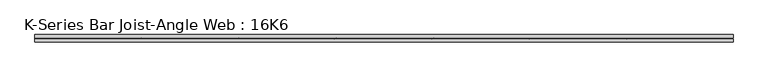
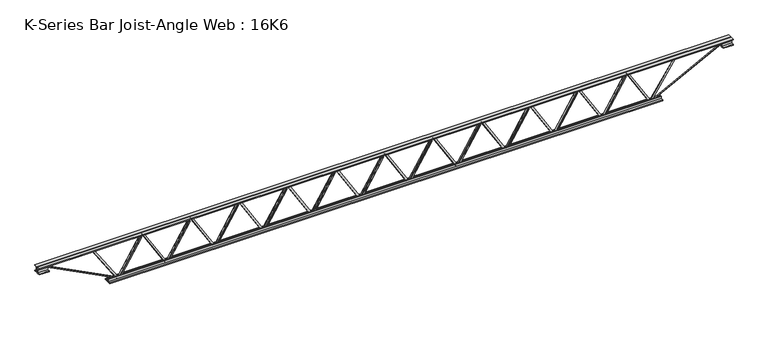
"""IFC4 building model written with IfcOpenShell, lengths in millimetres: beam geometry, K-Series Bar Joist-Angle Web : 16K6."""

from ifc_helpers import new_model, si_unit, frame, origin, place, context, project, spatial, polyline, outline, extrude, faceted_brep, source, transform, mapped, element, save


def k_series_bar_joist_angle_web_16k6_93f726df(model_context):
    return source(origin(), model_context, "Body", "SolidModel", [
        extrude(outline(polyline([(-4.75, 4.7625), (-4.75, 0.0), (-17.45, 0.0), (-17.45, 4.7625), (-4.75, 4.7625)])), frame((2166.7169932, 0.0, -164.9), z_axis=(-0.5200116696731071, 0.0, 0.8541591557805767), x_axis=(0.0, -1.0, 0.0)), (0.0, 0.0, 1.0), 386.1107122),
        extrude(outline(polyline([(-199.825, 2199.6818182), (-180.775, 2199.6818182), (-180.775, 2198.6843205), (199.825, 1966.9752296), (199.825, 1948.9227273), (180.775, 1948.9227273), (180.775, 1956.270225), (-199.825, 2187.9793159), (-199.825, 2199.6818182)])), frame((0.0, 0.0, 0.0), z_axis=(0.0, 1.0, 0.0), x_axis=(0.0, 0.0, 1.0)), (0.0, 0.0, 1.0), 4.75),
        faceted_brep([(1710.8636364, 0.0, -180.775), (1710.8636364, 0.0, -199.825), (1710.8636364, -4.75, -199.825), (1710.8636364, -4.75, -180.775), (1711.8611341, 0.0, -180.775), (1943.570225, 0.0, 199.825), (1961.6227273, 0.0, 199.825), (1961.6227273, 0.0, 180.775), (1954.2752296, 0.0, 180.775), (1722.5661387, 0.0, -199.825), (1722.5661387, -4.75, -199.825), (1743.8284613, -4.75, -164.9), (1739.7605283, -4.75, -162.4234444), (1940.5426045, -4.75, 167.3765556), (1944.6105375, -4.75, 164.9), (1954.2752296, -4.75, 180.775), (1961.6227273, -4.75, 180.775), (1961.6227273, -4.75, 199.825), (1943.570225, -4.75, 199.825), (1711.8611341, -4.75, -180.775), (1944.6105375, -17.4625, 164.9), (1743.8284613, -17.4625, -164.9), (1739.7605283, -17.4625, -162.4234444), (1940.5426045, -17.4625, 167.3765556)], [[[0, 1, 2, 3]], [[1, 0, 4, 5, 6, 7, 8, 9]], [[2, 1, 9, 10]], [[3, 2, 10, 11, 12, 13, 14, 15, 16, 17, 18, 19]], [[0, 3, 19, 4]], [[9, 8, 15, 14, 20, 21, 11, 10]], [[5, 4, 19, 18]], [[7, 6, 17, 16]], [[8, 7, 16, 15]], [[6, 5, 18, 17]], [[21, 22, 12, 11]], [[20, 14, 13, 23]], [[22, 21, 20, 23]], [[12, 22, 23, 13]]]),
        extrude(outline(polyline([(-4.75, 4.7625), (-4.75, 0.0), (-17.45, 0.0), (-17.45, 4.7625), (-4.75, 4.7625)])), frame((1677.8988114, 0.0, -164.9), z_axis=(-0.5200116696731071, 0.0, 0.8541591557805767), x_axis=(0.0, -1.0, 0.0)), (0.0, 0.0, 1.0), 386.1107122),
        extrude(outline(polyline([(-199.825, 1710.8636364), (-180.775, 1710.8636364), (-180.775, 1709.8661387), (199.825, 1478.1570478), (199.825, 1460.1045455), (180.775, 1460.1045455), (180.775, 1467.4520432), (-199.825, 1699.1611341), (-199.825, 1710.8636364)])), frame((0.0, 0.0, 0.0), z_axis=(0.0, 1.0, 0.0), x_axis=(0.0, 0.0, 1.0)), (0.0, 0.0, 1.0), 4.75),
        faceted_brep([(1222.0454545, 0.0, -180.775), (1222.0454545, 0.0, -199.825), (1222.0454545, -4.75, -199.825), (1222.0454545, -4.75, -180.775), (1223.0429522, 0.0, -180.775), (1454.7520432, 0.0, 199.825), (1472.8045455, 0.0, 199.825), (1472.8045455, 0.0, 180.775), (1465.4570478, 0.0, 180.775), (1233.7479568, 0.0, -199.825), (1233.7479568, -4.75, -199.825), (1255.0102795, -4.75, -164.9), (1250.9423465, -4.75, -162.4234444), (1451.7244227, -4.75, 167.3765556), (1455.7923556, -4.75, 164.9), (1465.4570478, -4.75, 180.775), (1472.8045455, -4.75, 180.775), (1472.8045455, -4.75, 199.825), (1454.7520432, -4.75, 199.825), (1223.0429522, -4.75, -180.775), (1455.7923556, -17.4625, 164.9), (1255.0102795, -17.4625, -164.9), (1250.9423465, -17.4625, -162.4234444), (1451.7244227, -17.4625, 167.3765556)], [[[0, 1, 2, 3]], [[1, 0, 4, 5, 6, 7, 8, 9]], [[2, 1, 9, 10]], [[3, 2, 10, 11, 12, 13, 14, 15, 16, 17, 18, 19]], [[0, 3, 19, 4]], [[9, 8, 15, 14, 20, 21, 11, 10]], [[5, 4, 19, 18]], [[7, 6, 17, 16]], [[8, 7, 16, 15]], [[6, 5, 18, 17]], [[21, 22, 12, 11]], [[20, 14, 13, 23]], [[22, 21, 20, 23]], [[12, 22, 23, 13]]]),
        extrude(outline(polyline([(-4.75, 4.7625), (-4.75, 0.0), (-17.45, 0.0), (-17.45, 4.7625), (-4.75, 4.7625)])), frame((1189.0806296, 0.0, -164.9), z_axis=(-0.5200116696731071, 0.0, 0.8541591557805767), x_axis=(0.0, -1.0, 0.0)), (0.0, 0.0, 1.0), 386.1107122),
        extrude(outline(polyline([(-199.825, 1222.0454545), (-180.775, 1222.0454545), (-180.775, 1221.0479568), (199.825, 989.3388659), (199.825, 971.2863636), (180.775, 971.2863636), (180.775, 978.6338613), (-199.825, 1210.3429522), (-199.825, 1222.0454545)])), frame((0.0, 0.0, 0.0), z_axis=(0.0, 1.0, 0.0), x_axis=(0.0, 0.0, 1.0)), (0.0, 0.0, 1.0), 4.75),
        faceted_brep([(733.2272727, 0.0, -180.775), (733.2272727, 0.0, -199.825), (733.2272727, -4.75, -199.825), (733.2272727, -4.75, -180.775), (734.2247704, 0.0, -180.775), (965.9338613, 0.0, 199.825), (983.9863636, 0.0, 199.825), (983.9863636, 0.0, 180.775), (976.6388659, 0.0, 180.775), (744.929775, 0.0, -199.825), (744.929775, -4.75, -199.825), (766.1920977, -4.75, -164.9), (762.1241647, -4.75, -162.4234444), (962.9062408, -4.75, 167.3765556), (966.9741738, -4.75, 164.9), (976.6388659, -4.75, 180.775), (983.9863636, -4.75, 180.775), (983.9863636, -4.75, 199.825), (965.9338613, -4.75, 199.825), (734.2247704, -4.75, -180.775), (966.9741738, -17.4625, 164.9), (766.1920977, -17.4625, -164.9), (762.1241647, -17.4625, -162.4234444), (962.9062408, -17.4625, 167.3765556)], [[[0, 1, 2, 3]], [[1, 0, 4, 5, 6, 7, 8, 9]], [[2, 1, 9, 10]], [[3, 2, 10, 11, 12, 13, 14, 15, 16, 17, 18, 19]], [[0, 3, 19, 4]], [[9, 8, 15, 14, 20, 21, 11, 10]], [[5, 4, 19, 18]], [[7, 6, 17, 16]], [[8, 7, 16, 15]], [[6, 5, 18, 17]], [[21, 22, 12, 11]], [[20, 14, 13, 23]], [[22, 21, 20, 23]], [[12, 22, 23, 13]]]),
        extrude(outline(polyline([(-4.75, 4.7625), (-4.75, 0.0), (-17.45, 0.0), (-17.45, 4.7625), (-4.75, 4.7625)])), frame((700.2624478, 0.0, -164.9), z_axis=(-0.5200116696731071, 0.0, 0.8541591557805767), x_axis=(0.0, -1.0, 0.0)), (0.0, 0.0, 1.0), 386.1107122),
        extrude(outline(polyline([(-199.825, 733.2272727), (-180.775, 733.2272727), (-180.775, 732.229775), (199.825, 500.5206841), (199.825, 482.4681818), (180.775, 482.4681818), (180.775, 489.8156795), (-199.825, 721.5247704), (-199.825, 733.2272727)])), frame((0.0, 0.0, 0.0), z_axis=(0.0, 1.0, 0.0), x_axis=(0.0, 0.0, 1.0)), (0.0, 0.0, 1.0), 4.75),
        faceted_brep([(244.4090909, 0.0, -180.775), (244.4090909, 0.0, -199.825), (244.4090909, -4.75, -199.825), (244.4090909, -4.75, -180.775), (245.4065886, 0.0, -180.775), (477.1156795, 0.0, 199.825), (495.1681818, 0.0, 199.825), (495.1681818, 0.0, 180.775), (487.8206841, 0.0, 180.775), (256.1115932, 0.0, -199.825), (256.1115932, -4.75, -199.825), (277.3739159, -4.75, -164.9), (273.3059829, -4.75, -162.4234444), (474.088059, -4.75, 167.3765556), (478.155992, -4.75, 164.9), (487.8206841, -4.75, 180.775), (495.1681818, -4.75, 180.775), (495.1681818, -4.75, 199.825), (477.1156795, -4.75, 199.825), (245.4065886, -4.75, -180.775), (478.155992, -17.4625, 164.9), (277.3739159, -17.4625, -164.9), (273.3059829, -17.4625, -162.4234444), (474.088059, -17.4625, 167.3765556)], [[[0, 1, 2, 3]], [[1, 0, 4, 5, 6, 7, 8, 9]], [[2, 1, 9, 10]], [[3, 2, 10, 11, 12, 13, 14, 15, 16, 17, 18, 19]], [[0, 3, 19, 4]], [[9, 8, 15, 14, 20, 21, 11, 10]], [[5, 4, 19, 18]], [[7, 6, 17, 16]], [[8, 7, 16, 15]], [[6, 5, 18, 17]], [[21, 22, 12, 11]], [[20, 14, 13, 23]], [[22, 21, 20, 23]], [[12, 22, 23, 13]]]),
        extrude(outline(polyline([(-4.75, 4.7624999), (-4.75, 0.0), (-17.45, 0.0), (-17.45, 4.7624999), (-4.75, 4.7624999)])), frame((211.444266, 0.0, -164.9), z_axis=(-0.5200116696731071, 0.0, 0.8541591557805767), x_axis=(0.0, -1.0, 0.0)), (0.0, 0.0, 1.0), 386.1107122),
        extrude(outline(polyline([(-199.825, 244.4090909), (-180.775, 244.4090909), (-180.775, 243.4115932), (199.825, 11.7025023), (199.825, -6.35), (180.775, -6.35), (180.775, 0.9974977), (-199.825, 232.7065886), (-199.825, 244.4090909)])), frame((0.0, 0.0, 0.0), z_axis=(0.0, 1.0, 0.0), x_axis=(0.0, 0.0, 1.0)), (0.0, 0.0, 1.0), 4.75),
        faceted_brep([(-244.4090909, 0.0, -180.775), (-244.4090909, 0.0, -199.825), (-244.4090909, -4.75, -199.825), (-244.4090909, -4.75, -180.775), (-243.4115932, 0.0, -180.775), (-11.7025023, 0.0, 199.825), (6.35, 0.0, 199.825), (6.35, 0.0, 180.775), (-0.9974977, 0.0, 180.775), (-232.7065886, 0.0, -199.825), (-232.7065886, -4.75, -199.825), (-211.444266, -4.75, -164.9), (-215.5121989, -4.75, -162.4234444), (-14.7301228, -4.75, 167.3765556), (-10.6621898, -4.75, 164.9), (-0.9974977, -4.75, 180.775), (6.35, -4.75, 180.775), (6.35, -4.75, 199.825), (-11.7025023, -4.75, 199.825), (-243.4115932, -4.75, -180.775), (-10.6621898, -17.4625, 164.9), (-211.444266, -17.4625, -164.9), (-215.5121989, -17.4625, -162.4234444), (-14.7301228, -17.4625, 167.3765556)], [[[0, 1, 2, 3]], [[1, 0, 4, 5, 6, 7, 8, 9]], [[2, 1, 9, 10]], [[3, 2, 10, 11, 12, 13, 14, 15, 16, 17, 18, 19]], [[0, 3, 19, 4]], [[9, 8, 15, 14, 20, 21, 11, 10]], [[5, 4, 19, 18]], [[7, 6, 17, 16]], [[8, 7, 16, 15]], [[6, 5, 18, 17]], [[21, 22, 12, 11]], [[20, 14, 13, 23]], [[22, 21, 20, 23]], [[12, 22, 23, 13]]]),
        extrude(outline(polyline([(-4.75, 4.7625), (-4.75, 0.0), (-17.45, 0.0), (-17.45, 4.7625), (-4.75, 4.7625)])), frame((-277.3739159, 0.0, -164.9), z_axis=(-0.5200116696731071, 0.0, 0.8541591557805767), x_axis=(0.0, -1.0, 0.0)), (0.0, 0.0, 1.0), 386.1107122),
        extrude(outline(polyline([(-199.825, -244.4090909), (-180.775, -244.4090909), (-180.775, -245.4065886), (199.825, -477.1156795), (199.825, -495.1681818), (180.775, -495.1681818), (180.775, -487.8206841), (-199.825, -256.1115932), (-199.825, -244.4090909)])), frame((0.0, 0.0, 0.0), z_axis=(0.0, 1.0, 0.0), x_axis=(0.0, 0.0, 1.0)), (0.0, 0.0, 1.0), 4.75),
        faceted_brep([(-733.2272727, 0.0, -180.775), (-733.2272727, 0.0, -199.825), (-733.2272727, -4.75, -199.825), (-733.2272727, -4.75, -180.775), (-732.229775, 0.0, -180.775), (-500.5206841, 0.0, 199.825), (-482.4681818, 0.0, 199.825), (-482.4681818, 0.0, 180.775), (-489.8156795, 0.0, 180.775), (-721.5247704, 0.0, -199.825), (-721.5247704, -4.75, -199.825), (-700.2624478, -4.75, -164.9), (-704.3303808, -4.75, -162.4234444), (-503.5483046, -4.75, 167.3765556), (-499.4803716, -4.75, 164.9), (-489.8156795, -4.75, 180.775), (-482.4681818, -4.75, 180.775), (-482.4681818, -4.75, 199.825), (-500.5206841, -4.75, 199.825), (-732.229775, -4.75, -180.775), (-499.4803716, -17.4625, 164.9), (-700.2624478, -17.4625, -164.9), (-704.3303808, -17.4625, -162.4234444), (-503.5483046, -17.4625, 167.3765556)], [[[0, 1, 2, 3]], [[1, 0, 4, 5, 6, 7, 8, 9]], [[2, 1, 9, 10]], [[3, 2, 10, 11, 12, 13, 14, 15, 16, 17, 18, 19]], [[0, 3, 19, 4]], [[9, 8, 15, 14, 20, 21, 11, 10]], [[5, 4, 19, 18]], [[7, 6, 17, 16]], [[8, 7, 16, 15]], [[6, 5, 18, 17]], [[21, 22, 12, 11]], [[20, 14, 13, 23]], [[22, 21, 20, 23]], [[12, 22, 23, 13]]]),
        extrude(outline(polyline([(-4.75, 4.7625), (-4.75, 0.0), (-17.45, 0.0), (-17.45, 4.7625), (-4.75, 4.7625)])), frame((-766.1920977, 0.0, -164.9), z_axis=(-0.5200116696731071, 0.0, 0.8541591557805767), x_axis=(0.0, -1.0, 0.0)), (0.0, 0.0, 1.0), 386.1107122),
        extrude(outline(polyline([(-199.825, -733.2272727), (-180.775, -733.2272727), (-180.775, -734.2247704), (199.825, -965.9338613), (199.825, -983.9863636), (180.775, -983.9863636), (180.775, -976.6388659), (-199.825, -744.929775), (-199.825, -733.2272727)])), frame((0.0, 0.0, 0.0), z_axis=(0.0, 1.0, 0.0), x_axis=(0.0, 0.0, 1.0)), (0.0, 0.0, 1.0), 4.75),
        faceted_brep([(-1222.0454545, 0.0, -180.775), (-1222.0454545, 0.0, -199.825), (-1222.0454545, -4.75, -199.825), (-1222.0454545, -4.75, -180.775), (-1221.0479568, 0.0, -180.775), (-989.3388659, 0.0, 199.825), (-971.2863636, 0.0, 199.825), (-971.2863636, 0.0, 180.775), (-978.6338613, 0.0, 180.775), (-1210.3429522, 0.0, -199.825), (-1210.3429522, -4.75, -199.825), (-1189.0806296, -4.75, -164.9), (-1193.1485626, -4.75, -162.4234444), (-992.3664864, -4.75, 167.3765556), (-988.2985534, -4.75, 164.9), (-978.6338613, -4.75, 180.775), (-971.2863636, -4.75, 180.775), (-971.2863636, -4.75, 199.825), (-989.3388659, -4.75, 199.825), (-1221.0479568, -4.75, -180.775), (-988.2985534, -17.4625, 164.9), (-1189.0806296, -17.4625, -164.9), (-1193.1485626, -17.4625, -162.4234444), (-992.3664864, -17.4625, 167.3765556)], [[[0, 1, 2, 3]], [[1, 0, 4, 5, 6, 7, 8, 9]], [[2, 1, 9, 10]], [[3, 2, 10, 11, 12, 13, 14, 15, 16, 17, 18, 19]], [[0, 3, 19, 4]], [[9, 8, 15, 14, 20, 21, 11, 10]], [[5, 4, 19, 18]], [[7, 6, 17, 16]], [[8, 7, 16, 15]], [[6, 5, 18, 17]], [[21, 22, 12, 11]], [[20, 14, 13, 23]], [[22, 21, 20, 23]], [[12, 22, 23, 13]]]),
        extrude(outline(polyline([(-4.75, 4.7625), (-4.75, 0.0), (-17.45, 0.0), (-17.45, 4.7625), (-4.75, 4.7625)])), frame((-1255.0102795, 0.0, -164.9), z_axis=(-0.5200116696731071, 0.0, 0.8541591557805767), x_axis=(0.0, -1.0, 0.0)), (0.0, 0.0, 1.0), 386.1107122),
        extrude(outline(polyline([(-199.825, -1222.0454545), (-180.775, -1222.0454545), (-180.775, -1223.0429522), (199.825, -1454.7520432), (199.825, -1472.8045455), (180.775, -1472.8045455), (180.775, -1465.4570478), (-199.825, -1233.7479568), (-199.825, -1222.0454545)])), frame((0.0, 0.0, 0.0), z_axis=(0.0, 1.0, 0.0), x_axis=(0.0, 0.0, 1.0)), (0.0, 0.0, 1.0), 4.75),
        faceted_brep([(-1710.8636364, 0.0, -180.775), (-1710.8636364, 0.0, -199.825), (-1710.8636364, -4.75, -199.825), (-1710.8636364, -4.75, -180.775), (-1709.8661387, 0.0, -180.775), (-1478.1570478, 0.0, 199.825), (-1460.1045455, 0.0, 199.825), (-1460.1045455, 0.0, 180.775), (-1467.4520432, 0.0, 180.775), (-1699.1611341, 0.0, -199.825), (-1699.1611341, -4.75, -199.825), (-1677.8988114, -4.75, -164.9), (-1681.9667444, -4.75, -162.4234444), (-1481.1846682, -4.75, 167.3765556), (-1477.1167353, -4.75, 164.9), (-1467.4520432, -4.75, 180.775), (-1460.1045455, -4.75, 180.775), (-1460.1045455, -4.75, 199.825), (-1478.1570478, -4.75, 199.825), (-1709.8661387, -4.75, -180.775), (-1477.1167353, -17.4625, 164.9), (-1677.8988114, -17.4625, -164.9), (-1681.9667444, -17.4625, -162.4234444), (-1481.1846682, -17.4625, 167.3765556)], [[[0, 1, 2, 3]], [[1, 0, 4, 5, 6, 7, 8, 9]], [[2, 1, 9, 10]], [[3, 2, 10, 11, 12, 13, 14, 15, 16, 17, 18, 19]], [[0, 3, 19, 4]], [[9, 8, 15, 14, 20, 21, 11, 10]], [[5, 4, 19, 18]], [[7, 6, 17, 16]], [[8, 7, 16, 15]], [[6, 5, 18, 17]], [[21, 22, 12, 11]], [[20, 14, 13, 23]], [[22, 21, 20, 23]], [[12, 22, 23, 13]]]),
        extrude(outline(polyline([(-4.75, 4.7625), (-4.75, 0.0), (-17.45, 0.0), (-17.45, 4.7625), (-4.75, 4.7625)])), frame((-1743.8284613, 0.0, -164.9), z_axis=(-0.5200116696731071, 0.0, 0.8541591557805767), x_axis=(0.0, -1.0, 0.0)), (0.0, 0.0, 1.0), 386.1107122),
        extrude(outline(polyline([(-199.825, -1710.8636364), (-180.775, -1710.8636364), (-180.775, -1711.8611341), (199.825, -1943.570225), (199.825, -1961.6227273), (180.775, -1961.6227273), (180.775, -1954.2752296), (-199.825, -1722.5661387), (-199.825, -1710.8636364)])), frame((0.0, 0.0, 0.0), z_axis=(0.0, 1.0, 0.0), x_axis=(0.0, 0.0, 1.0)), (0.0, 0.0, 1.0), 4.75),
        faceted_brep([(-2199.6818182, 0.0, -180.775), (-2199.6818182, 0.0, -199.825), (-2199.6818182, -4.75, -199.825), (-2199.6818182, -4.75, -180.775), (-2198.6843205, 0.0, -180.775), (-1966.9752296, 0.0, 199.825), (-1948.9227273, 0.0, 199.825), (-1948.9227273, 0.0, 180.775), (-1956.270225, 0.0, 180.775), (-2187.9793159, 0.0, -199.825), (-2187.9793159, -4.75, -199.825), (-2166.7169932, -4.75, -164.9), (-2170.7849262, -4.75, -162.4234444), (-1970.0028501, -4.75, 167.3765556), (-1965.9349171, -4.75, 164.9), (-1956.270225, -4.75, 180.775), (-1948.9227273, -4.75, 180.775), (-1948.9227273, -4.75, 199.825), (-1966.9752296, -4.75, 199.825), (-2198.6843205, -4.75, -180.775), (-1965.9349171, -17.4625, 164.9), (-2166.7169932, -17.4625, -164.9), (-2170.7849262, -17.4625, -162.4234444), (-1970.0028501, -17.4625, 167.3765556)], [[[0, 1, 2, 3]], [[1, 0, 4, 5, 6, 7, 8, 9]], [[2, 1, 9, 10]], [[3, 2, 10, 11, 12, 13, 14, 15, 16, 17, 18, 19]], [[0, 3, 19, 4]], [[9, 8, 15, 14, 20, 21, 11, 10]], [[5, 4, 19, 18]], [[7, 6, 17, 16]], [[8, 7, 16, 15]], [[6, 5, 18, 17]], [[21, 22, 12, 11]], [[20, 14, 13, 23]], [[22, 21, 20, 23]], [[12, 22, 23, 13]]]),
        extrude(outline(polyline([(-4.75, 4.7624999), (-4.75, 0.0), (-17.45, 0.0), (-17.45, 4.7624999), (-4.75, 4.7624999)])), frame((2655.5351751, 0.0, -164.9), z_axis=(-0.5200116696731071, 0.0, 0.8541591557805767), x_axis=(0.0, -1.0, 0.0)), (0.0, 0.0, 1.0), 386.1107122),
        extrude(outline(polyline([(-199.825, 2688.5), (-180.775, 2688.5), (-180.775, 2687.5025023), (199.825, 2455.7934114), (199.825, 2437.7409091), (180.775, 2437.7409091), (180.775, 2445.0884068), (-199.825, 2676.7974977), (-199.825, 2688.5)])), frame((0.0, 0.0, 0.0), z_axis=(0.0, 1.0, 0.0), x_axis=(0.0, 0.0, 1.0)), (0.0, 0.0, 1.0), 4.75),
        faceted_brep([(2199.6818182, 0.0, -180.775), (2199.6818182, 0.0, -199.825), (2199.6818182, -4.75, -199.825), (2199.6818182, -4.75, -180.775), (2200.6793159, 0.0, -180.775), (2432.3884068, 0.0, 199.825), (2450.4409091, 0.0, 199.825), (2450.4409091, 0.0, 180.775), (2443.0934114, 0.0, 180.775), (2211.3843205, 0.0, -199.825), (2211.3843205, -4.75, -199.825), (2232.6466431, -4.75, -164.9), (2228.5787102, -4.75, -162.4234444), (2429.3607863, -4.75, 167.3765556), (2433.4287193, -4.75, 164.9), (2443.0934114, -4.75, 180.775), (2450.4409091, -4.75, 180.775), (2450.4409091, -4.75, 199.825), (2432.3884068, -4.75, 199.825), (2200.6793159, -4.75, -180.775), (2433.4287193, -17.4625, 164.9), (2232.6466431, -17.4625, -164.9), (2228.5787102, -17.4625, -162.4234444), (2429.3607863, -17.4625, 167.3765556)], [[[0, 1, 2, 3]], [[1, 0, 4, 5, 6, 7, 8, 9]], [[2, 1, 9, 10]], [[3, 2, 10, 11, 12, 13, 14, 15, 16, 17, 18, 19]], [[0, 3, 19, 4]], [[9, 8, 15, 14, 20, 21, 11, 10]], [[5, 4, 19, 18]], [[7, 6, 17, 16]], [[8, 7, 16, 15]], [[6, 5, 18, 17]], [[21, 22, 12, 11]], [[20, 14, 13, 23]], [[22, 21, 20, 23]], [[12, 22, 23, 13]]]),
        extrude(outline(polyline([(-4.75, 4.7624999), (-4.75, 0.0), (-17.45, 0.0), (-17.45, 4.7624999), (-4.75, 4.7624999)])), frame((-2232.6466431, 0.0, -164.9), z_axis=(-0.5200116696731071, 0.0, 0.8541591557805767), x_axis=(0.0, -1.0, 0.0)), (0.0, 0.0, 1.0), 386.1107122),
        extrude(outline(polyline([(-199.825, -2199.6818182), (-180.775, -2199.6818182), (-180.775, -2200.6793159), (199.825, -2432.3884068), (199.825, -2450.4409091), (180.775, -2450.4409091), (180.775, -2443.0934114), (-199.825, -2211.3843205), (-199.825, -2199.6818182)])), frame((0.0, 0.0, 0.0), z_axis=(0.0, 1.0, 0.0), x_axis=(0.0, 0.0, 1.0)), (0.0, 0.0, 1.0), 4.75),
        faceted_brep([(-2688.5, 0.0, -180.775), (-2688.5, 0.0, -199.825), (-2688.5, -4.75, -199.825), (-2688.5, -4.75, -180.775), (-2687.5025023, 0.0, -180.775), (-2455.7934114, 0.0, 199.825), (-2437.7409091, 0.0, 199.825), (-2437.7409091, 0.0, 180.775), (-2445.0884068, 0.0, 180.775), (-2676.7974977, 0.0, -199.825), (-2676.7974977, -4.75, -199.825), (-2655.5351751, -4.75, -164.9), (-2659.603108, -4.75, -162.4234444), (-2458.8210319, -4.75, 167.3765556), (-2454.7530989, -4.75, 164.9), (-2445.0884068, -4.75, 180.775), (-2437.7409091, -4.75, 180.775), (-2437.7409091, -4.75, 199.825), (-2455.7934114, -4.75, 199.825), (-2687.5025023, -4.75, -180.775), (-2454.7530989, -17.4625, 164.9), (-2655.5351751, -17.4625, -164.9), (-2659.603108, -17.4625, -162.4234444), (-2458.8210319, -17.4625, 167.3765556)], [[[0, 1, 2, 3]], [[1, 0, 4, 5, 6, 7, 8, 9]], [[2, 1, 9, 10]], [[3, 2, 10, 11, 12, 13, 14, 15, 16, 17, 18, 19]], [[0, 3, 19, 4]], [[9, 8, 15, 14, 20, 21, 11, 10]], [[5, 4, 19, 18]], [[7, 6, 17, 16]], [[8, 7, 16, 15]], [[6, 5, 18, 17]], [[21, 22, 12, 11]], [[20, 14, 13, 23]], [[22, 21, 20, 23]], [[12, 22, 23, 13]]]),
        extrude(outline(polyline([(4.75, 203.0), (36.75, 203.0), (36.75, 196.5), (11.25, 196.5), (11.25, 171.0), (4.75, 171.0), (4.75, 203.0)])), frame((-3500.5, 0.0, 0.0), z_axis=(1.0, 0.0, 0.0), x_axis=(0.0, 1.0, 0.0)), (0.0, 0.0, 1.0), 7001.0),
        extrude(outline(polyline([(-4.75, 203.0), (-4.75, 171.0), (-11.25, 171.0), (-11.25, 196.5), (-36.75, 196.5), (-36.75, 203.0), (-4.75, 203.0)])), frame((-3500.5, 0.0, 0.0), z_axis=(1.0, 0.0, 0.0), x_axis=(0.0, 1.0, 0.0)), (0.0, 0.0, 1.0), 7001.0),
        extrude(outline(polyline([(4.75, -203.0), (4.75, -171.0), (11.25, -171.0), (11.25, -196.5), (36.75, -196.5), (36.75, -203.0), (4.75, -203.0)])), frame((-2788.5, 0.0, 0.0), z_axis=(1.0, 0.0, 0.0), x_axis=(0.0, 1.0, 0.0)), (0.0, 0.0, 1.0), 5577.0),
        extrude(outline(polyline([(-4.75, -203.0), (-36.75, -203.0), (-36.75, -196.5), (-11.25, -196.5), (-11.25, -171.0), (-4.75, -171.0), (-4.75, -203.0)])), frame((-2788.5, 0.0, 0.0), z_axis=(1.0, 0.0, 0.0), x_axis=(0.0, 1.0, 0.0)), (0.0, 0.0, 1.0), 5577.0),
        extrude(outline(polyline([(4.75, 139.5), (4.75, 171.0), (11.25, 171.0), (11.25, 146.0), (36.75, 146.0), (36.75, 139.5), (4.75, 139.5)])), frame((3400.5, 0.0, 0.0), z_axis=(1.0, 0.0, 0.0), x_axis=(0.0, 1.0, 0.0)), (0.0, 0.0, 1.0), 100.0),
        extrude(outline(polyline([(-4.75, 139.5), (-36.75, 139.5), (-36.75, 146.0), (-11.25, 146.0), (-11.25, 171.0), (-4.75, 171.0), (-4.75, 139.5)])), frame((3400.5, 0.0, 0.0), z_axis=(1.0, 0.0, 0.0), x_axis=(0.0, 1.0, 0.0)), (0.0, 0.0, 1.0), 100.0),
        extrude(outline(polyline([(-4.75, 139.5), (-36.75, 139.5), (-36.75, 146.0), (-11.25, 146.0), (-11.25, 171.0), (-4.75, 171.0), (-4.75, 139.5)])), frame((-3500.5, 0.0, 0.0), z_axis=(1.0, 0.0, 0.0), x_axis=(0.0, 1.0, 0.0)), (0.0, 0.0, 1.0), 100.0),
        extrude(outline(polyline([(36.75, 139.5), (4.75, 139.5), (4.75, 171.0), (11.25, 171.0), (11.25, 146.0), (36.75, 146.0), (36.75, 139.5)])), frame((-3500.5, 0.0, 0.0), z_axis=(1.0, 0.0, 0.0), x_axis=(0.0, 1.0, 0.0)), (0.0, 0.0, 1.0), 100.0),
        extrude(outline(polyline([(193.9566712, -2952.8662338), (174.9066712, -2952.8662338), (174.9066712, -2945.0280247), (-201.6379373, -2696.0433598), (-191.1307216, -2680.1530823), (193.9566712, -2934.7865396), (193.9566712, -2952.8662338)])), frame((0.0, 0.0, 0.0), z_axis=(0.0, 1.0, 0.0), x_axis=(0.0, 0.0, 1.0)), (0.0, 0.0, 1.0), 4.7625),
        extrude(outline(polyline([(-4.7625, -10.5646146), (-4.7625, 8.4853853), (0.0, 8.4853853), (0.0, -10.5646146), (-4.7625, -10.5646146)])), frame((2688.5, 0.0, -196.65), z_axis=(0.5536162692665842, 0.0, 0.8327718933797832), x_axis=(0.0, -1.0, 0.0)), (0.0, 0.0, 1.0), 441.4774357),
        extrude(outline(polyline([(-200.8705467, -2690.6793315), (-192.4294533, -2686.3206685), (175.75, -3399.3460208), (175.75, -3500.5), (166.25, -3500.5), (166.25, -3401.6539792), (-200.8705467, -2690.6793315)])), frame((0.0, -4.75, 0.0), z_axis=(0.0, 1.0, 0.0), x_axis=(0.0, 0.0, 1.0)), (0.0, 0.0, 1.0), 9.5),
        extrude(outline(polyline([(0.0, -9.5), (0.0, 0.0), (801.3179909, 0.0), (801.3179909, -9.5), (0.0, -9.5)])), frame((3402.6793315, -4.75, 166.7794533), z_axis=(-0.45880662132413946, 0.0, 0.888536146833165), x_axis=(-0.888536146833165, 0.0, -0.45880662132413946)), (0.0, 0.0, 1.0), 9.5),
    ])


if __name__ == "__main__":
    model = new_model("IFC4")
    model_context = context("Model", 3, world=origin())
    ifc_project = project(units=[si_unit("LENGTHUNIT", "METRE", prefix="MILLI")], contexts=[model_context])
    site = spatial("IfcSite", under=ifc_project)
    building = spatial("IfcBuilding", under=site)
    placement = place(None, origin())
    k_series_bar_joist_angle_web_16k6_shape = k_series_bar_joist_angle_web_16k6_93f726df(model_context)
    element("IfcBeam", 1, ObjectType="K-Series Bar Joist-Angle Web : 16K6", at=placement, inside=building, context=model_context, shape_type="MappedRepresentation", body=[
        mapped(k_series_bar_joist_angle_web_16k6_shape, transform((0.0, 0.0, 0.0), x_axis=(1.0, 0.0, 0.0), y_axis=(0.0, 1.0, 0.0), z_axis=(0.0, 0.0, 1.0))),
    ])
    save(model, "model.ifc")
